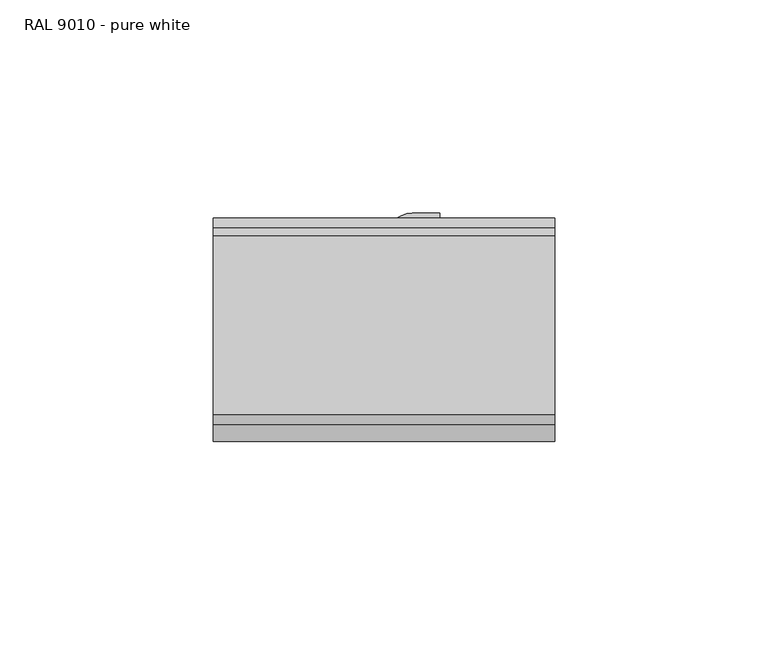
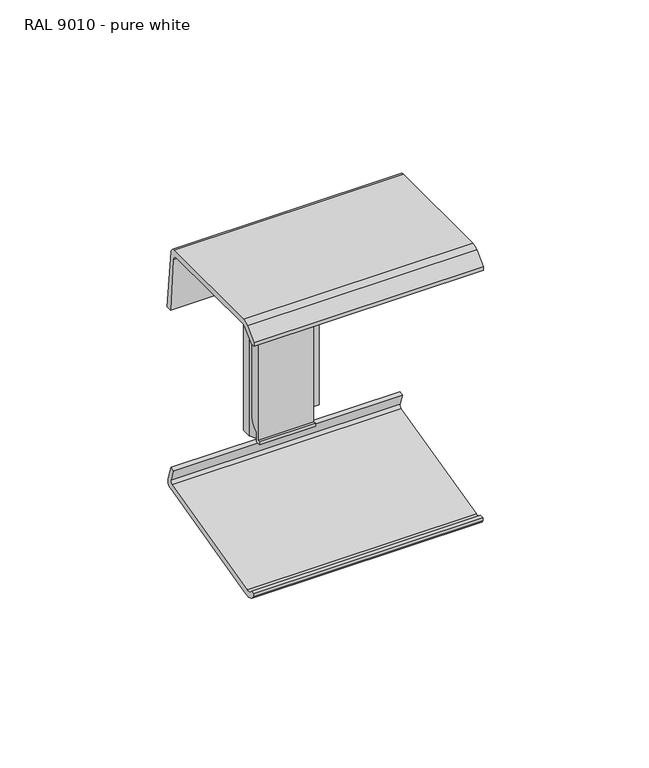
"""IFC4 building model written with IfcOpenShell, lengths in millimetres: cable carrier fitting geometry, Electrical_Installations_Hager_GBD-Joint-Cover-And-Coupling-Piece-Curved : RAL 9010 - pure white."""

from ifc_helpers import new_model, si_unit, point, frame, frame_2d, origin, place, context, project, spatial, polyline, circle_curve, trimmed, segment, composite_curve, outline, extrude, source, transform, mapped, element, save


def ral_9010_pure_white_928185f8(model_context):
    return source(origin(), model_context, "Body", "SweptSolid", [
        extrude(outline(composite_curve([segment(polyline([(19.54375, 15.778125), (19.54375, 16.578125), (21.54375, 16.578125), (21.54375, 12.6543796)]), True, "CONTINUOUS"), segment(trimmed(circle_curve(frame_2d((18.0713523, 7.5844117)), 6.1450891), [point((21.54375, 12.6543796))], [point((24.2, 8.0336306))], False, "CARTESIAN"), True, "CONTINUOUS"), segment(polyline([(24.2, 8.0336306), (24.2, -19.0515165)]), True, "CONTINUOUS"), segment(trimmed(circle_curve(frame_2d((19.0696645, -19.0515165)), 5.1303355), [point((24.2, -19.0515165))], [point((21.54375, -23.5458733))], False, "CARTESIAN"), True, "CONTINUOUS"), segment(polyline([(21.54375, -23.5458733), (21.54375, -27.2625), (19.7771185, -27.2625), (19.7771185, -26.257314), (20.74375, -26.257314), (20.74375, 15.778125), (19.54375, 15.778125)]), True, "CONTINUOUS")], self_intersect=False)), frame((-0.7125, 0.0, 0.0), z_axis=(1.0, 0.0, 0.0), x_axis=(0.0, 1.0, 0.0)), (0.0, 0.0, 1.0), 19.5),
        extrude(outline(composite_curve([segment(polyline([(-0.7125, 29.4), (15.6888516, 29.4)]), True, "CONTINUOUS"), segment(trimmed(circle_curve(frame_2d((19.3875, 24.3)), 6.3), [point((15.6888516, 29.4))], [point((19.3875, 30.6))], False, "CARTESIAN"), True, "CONTINUOUS"), segment(polyline([(19.3875, 30.6), (25.7875, 30.6), (25.7875, 29.6), (18.7875, 29.6), (18.7875, 26.1), (17.5173294, 23.9), (16.234474, 23.9), (16.234474, 26.1), (1.791584, 26.1), (1.791584, 23.9), (0.5576706, 23.9), (-0.7125, 26.1), (-0.7125, 29.4)]), True, "CONTINUOUS")], self_intersect=False)), frame((0.0, 0.0, -27.8), z_axis=(0.0, 0.0, 1.0), x_axis=(1.0, 0.0, 0.0)), (0.0, 0.0, 1.0), 45.0),
        extrude(outline(composite_curve([segment(polyline([(-21.4672628, 44.20625), (-22.9672628, 44.20625), (-22.9672628, 45.5346771), (-19.1041796, 49.3977603)]), True, "CONTINUOUS"), segment(trimmed(circle_curve(frame_2d((-16.6694702, 46.9630509)), 3.4431991), [point((-19.1041796, 49.3977603))], [point((-16.6694702, 50.40625))], False, "CARTESIAN"), True, "CONTINUOUS"), segment(polyline([(-16.6694702, 50.40625), (25.2528337, 50.40625)]), True, "CONTINUOUS"), segment(trimmed(circle_curve(frame_2d((25.2528337, 48.4862536)), 1.9199964), [point((25.2528337, 50.40625))], [point((27.1623122, 48.6869479))], False, "CARTESIAN"), True, "CONTINUOUS"), segment(polyline([(27.1623122, 48.6869479), (29.4466704, 26.9527315), (27.5162731, 26.9527315), (25.8002503, 46.5669619)]), True, "CONTINUOUS"), segment(trimmed(circle_curve(frame_2d((23.7930196, 46.391352)), 2.014898), [point((25.8002503, 46.5669619))], [point((23.7930196, 48.40625))], True, "CARTESIAN"), True, "CONTINUOUS"), segment(polyline([(23.7930196, 48.40625), (-16.2098417, 48.40625)]), True, "CONTINUOUS"), segment(trimmed(circle_curve(frame_2d((-16.2098417, 45.8534096)), 2.5528404), [point((-16.2098417, 48.40625))], [point((-18.0149724, 47.6585404))], True, "CARTESIAN"), True, "CONTINUOUS"), segment(polyline([(-18.0149724, 47.6585404), (-21.4672628, 44.20625)]), True, "CONTINUOUS")], self_intersect=False)), frame((-27.2828193, 0.0, 0.0), z_axis=(1.0, 0.0, 0.0), x_axis=(0.0, 1.0, 0.0)), (0.0, 0.0, 1.0), 80.0),
        extrude(outline(composite_curve([segment(polyline([(-18.7102466, -48.1711935), (26.6108415, -36.8713771)]), True, "CONTINUOUS"), segment(trimmed(circle_curve(frame_2d((26.3846816, -35.9642994)), 0.9348466), [point((26.6108415, -36.8713771))], [point((27.2737735, -35.675416))], True, "CARTESIAN"), True, "CONTINUOUS"), segment(polyline([(27.2737735, -35.675416), (25.8783711, -31.3808088), (27.2874319, -30.9229772), (28.9620605, -36.0769542)]), True, "CONTINUOUS"), segment(trimmed(circle_curve(frame_2d((27.0043817, -36.7130426)), 2.0584253), [point((28.9620605, -36.0769542))], [point((27.5023598, -38.7103239))], False, "CARTESIAN"), True, "CONTINUOUS"), segment(polyline([(27.5023598, -38.7103239), (-18.2264029, -50.1117849)]), True, "CONTINUOUS"), segment(trimmed(circle_curve(frame_2d((-19.2119511, -46.1589669)), 4.0738282), [point((-18.2264029, -50.1117849))], [point((-22.7672628, -48.1478949))], False, "CARTESIAN"), True, "CONTINUOUS"), segment(polyline([(-22.7672628, -48.1478949), (-22.7672628, -47.09375), (-21.3467816, -47.09375)]), True, "CONTINUOUS"), segment(trimmed(circle_curve(frame_2d((-19.2931935, -45.8331212)), 2.4096491), [point((-21.3467816, -47.09375))], [point((-18.7102466, -48.1711935))], True, "CARTESIAN"), True, "CONTINUOUS")], self_intersect=False)), frame((-27.2828193, 0.0, 0.0), z_axis=(1.0, 0.0, 0.0), x_axis=(0.0, 1.0, 0.0)), (0.0, 0.0, 1.0), 80.0),
    ])


if __name__ == "__main__":
    model = new_model("IFC4")
    model_context = context("Model", 3, world=origin())
    ifc_project = project(units=[si_unit("LENGTHUNIT", "METRE", prefix="MILLI")], contexts=[model_context])
    site = spatial("IfcSite", under=ifc_project)
    building = spatial("IfcBuilding", under=site)
    placement = place(None, origin())
    ral_9010_pure_white_shape = ral_9010_pure_white_928185f8(model_context)
    element("IfcCableCarrierFitting", 1, ObjectType="Electrical_Installations_Hager_GBD-Joint-Cover-And-Coupling-Piece-Curved : RAL 9010 - pure white", at=placement, inside=building, context=model_context, shape_type="MappedRepresentation", body=[
        mapped(ral_9010_pure_white_shape, transform((0.0, 0.0, 0.0), x_axis=(1.0, 0.0, 0.0), y_axis=(0.0, 1.0, 0.0), z_axis=(0.0, 0.0, 1.0))),
    ])
    save(model, "model.ifc")
